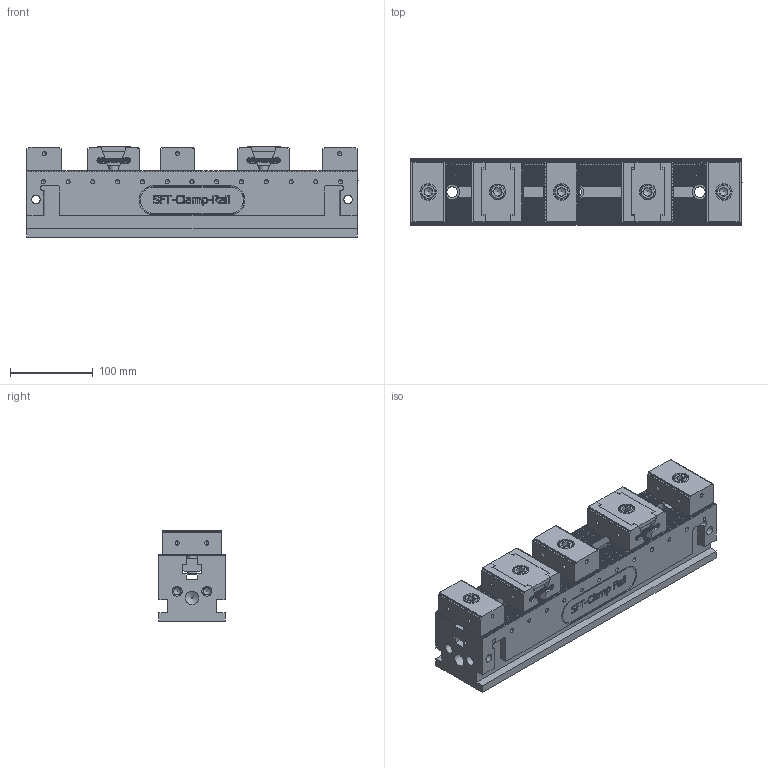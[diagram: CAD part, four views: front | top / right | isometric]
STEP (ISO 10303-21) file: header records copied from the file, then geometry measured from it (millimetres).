
FILE_DESCRIPTION((''),'2;1');
FILE_NAME('C:\Users\User\Desktop\Mastercam-harjoitukset\CR400.80.018\CR400.80.018.stp','2020-03-26T22:36:24',(''),(''),'STEP Write','Mastercam 2020 ... CNC Software, Inc.','');
FILE_SCHEMA(('AUTOMOTIVE_DESIGN'));
Length unit declared in the file: millimetre
Products named in the file (1): None
Bounding box: 402 x 80 x 109.09 mm (x, y, z)
Volume: 2647587.7 mm3; surface area: 382811.9 mm2
Topology: 40 solids, 40 shells, 4328 faces, 12266 edges, 8070 vertices
Faces by surface type: plane 3387, cylinder 565, bspline 178, cone 152, torus 46
Full cylindrical faces by diameter (mm): 2 x8, 2.5 x8, 4.5 x8, 5 x52, 7.05 x4, 8.5 x4, 10.2 x7, 10.3 x2, 12 x9, 13 x3, 13.5 x3, 16 x2, 18 x8, 18.5 x3, 20 x6
Entity records: 158847 total; most frequent: CARTESIAN_POINT 45733, ORIENTED_EDGE 23754, DIRECTION 20372, EDGE_CURVE 11877, VECTOR 9134, LINE 9134, VERTEX_POINT 7941, AXIS2_PLACEMENT_3D 5619
